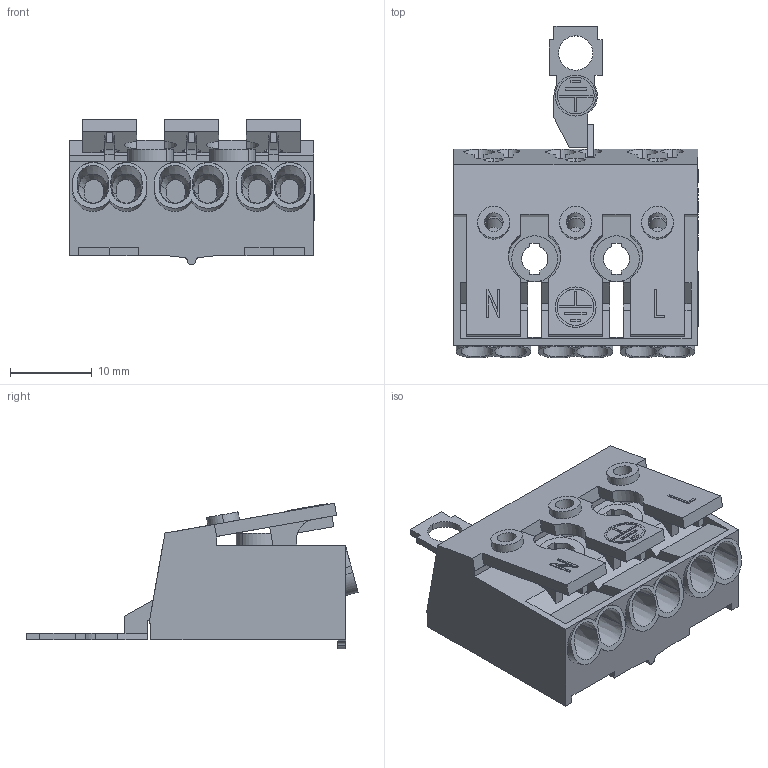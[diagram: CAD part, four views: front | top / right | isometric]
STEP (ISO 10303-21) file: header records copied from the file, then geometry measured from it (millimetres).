
FILE_DESCRIPTION((' '),'1');
FILE_NAME('002YR0GY04.stp','2011-06-28 T08:03:47',(''),(''),'STEP Interface v1.0 by CT CoreTechnologie','3D_Evolution v1.0 by CT CoreTechnologie','');
FILE_SCHEMA(('CONFIG_CONTROL_DESIGN'));
Length unit declared in the file: millimetre
Products named in the file (3): Assem1; 002-R0D-05; 002-R0M-04
Assembly tree (2 placements, depth 2):
  Assem1
    002-R0D-05
    002-R0M-04
Bounding box: 29.9 x 40.55 x 17.78 mm (x, y, z)
Volume: 6938.2 mm3; surface area: 5870.3 mm2
Topology: 2 solids, 2 shells, 536 faces, 1447 edges, 959 vertices
Faces by surface type: plane 367, cylinder 139, bspline 30
Entity records: 24402 total; most frequent: CARTESIAN_POINT 6039, ORIENTED_EDGE 2866, DIRECTION 2651, EDGE_CURVE 1433, VECTOR 1065, LINE 1065, VERTEX_POINT 953, AXIS2_PLACEMENT_3D 793
